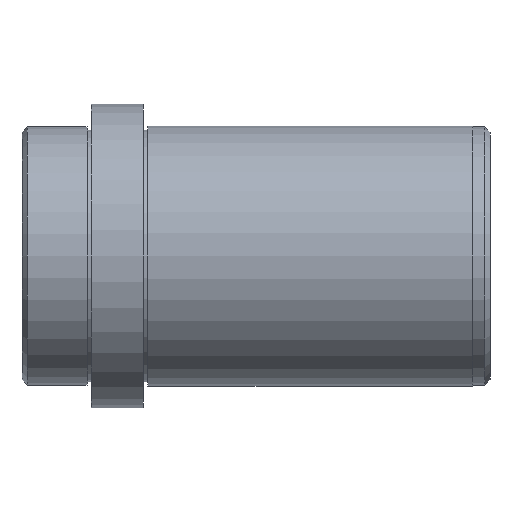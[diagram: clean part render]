
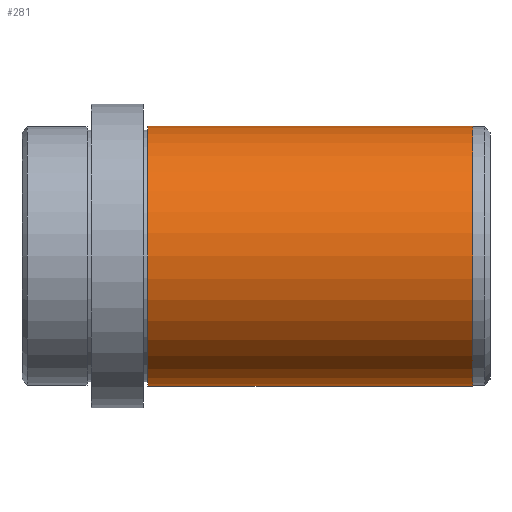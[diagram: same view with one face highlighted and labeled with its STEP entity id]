
A CAD part, front view. The second image highlights one B-rep face of the part: STEP entity #281.
In plain terms, the highlighted cylindrical face has radius 15 mm (diameter 30 mm), a full revolution.
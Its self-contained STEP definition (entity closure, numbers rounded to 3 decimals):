
#20=CYLINDRICAL_SURFACE('',#340,15.);
#50=FACE_OUTER_BOUND('',#73,.T.);
#73=EDGE_LOOP('',(#235,#236,#237,#238));
#88=LINE('',#508,#99);
#99=VECTOR('',#432,15.);
#120=CIRCLE('',#339,15.);
#121=CIRCLE('',#341,15.);
#142=VERTEX_POINT('',#503);
#143=VERTEX_POINT('',#506);
#174=EDGE_CURVE('',#142,#142,#120,.T.);
#175=EDGE_CURVE('',#143,#143,#121,.T.);
#176=EDGE_CURVE('',#143,#142,#88,.T.);
#235=ORIENTED_EDGE('',*,*,#175,.F.);
#236=ORIENTED_EDGE('',*,*,#176,.T.);
#237=ORIENTED_EDGE('',*,*,#174,.T.);
#238=ORIENTED_EDGE('',*,*,#176,.F.);
#281=ADVANCED_FACE('',(#50),#20,.T.);
#339=AXIS2_PLACEMENT_3D('',#504,#426,#427);
#340=AXIS2_PLACEMENT_3D('',#505,#428,#429);
#341=AXIS2_PLACEMENT_3D('',#507,#430,#431);
#426=DIRECTION('center_axis',(1.,0.,0.));
#427=DIRECTION('ref_axis',(0.,0.,-1.));
#428=DIRECTION('center_axis',(1.,0.,0.));
#429=DIRECTION('ref_axis',(0.,1.,0.));
#430=DIRECTION('center_axis',(1.,0.,0.));
#431=DIRECTION('ref_axis',(0.,0.,-1.));
#432=DIRECTION('',(-1.,0.,0.));
#503=CARTESIAN_POINT('',(14.5,-15.,0.));
#504=CARTESIAN_POINT('Origin',(14.5,0.,0.));
#505=CARTESIAN_POINT('Origin',(33.25,0.,0.));
#506=CARTESIAN_POINT('',(52.,-15.,0.));
#507=CARTESIAN_POINT('Origin',(52.,0.,0.));
#508=CARTESIAN_POINT('',(33.25,-15.,0.));
